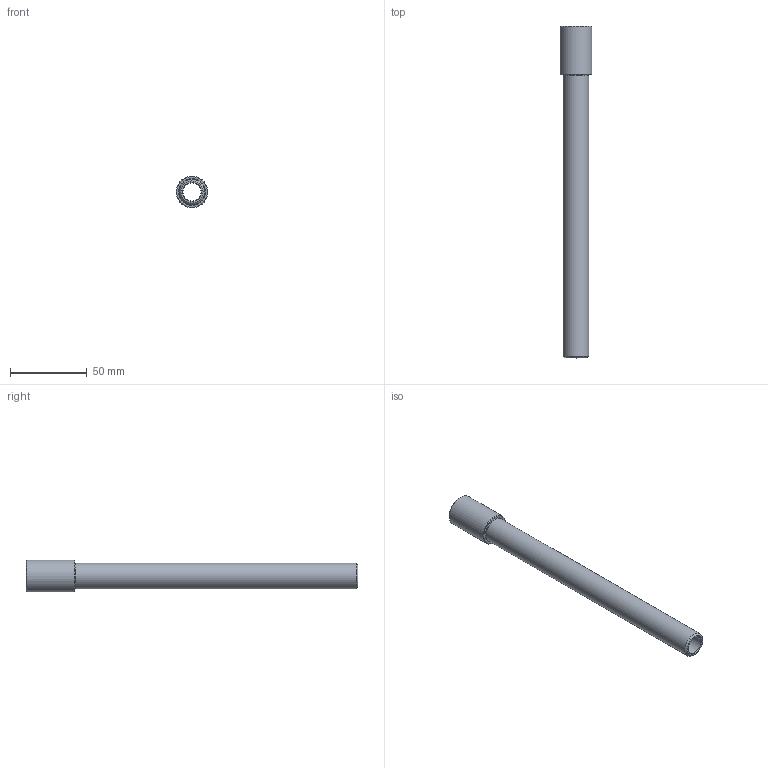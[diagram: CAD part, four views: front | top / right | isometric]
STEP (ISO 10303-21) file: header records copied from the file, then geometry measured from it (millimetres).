
FILE_DESCRIPTION(/* description */ (''),/* implementation_level */ '2;1');
FILE_NAME(/* name */ 'C:/Users/drich/Desktop/EP38X8-1_2 v1.step',/* time_stamp */ '2019-11-18T15:07:11-06:00',/* author */ (''),/* organization */ (''),/* preprocessor_version */ 'ST-DEVELOPER v18',/* originating_system */ 'Autodesk Translation Framework v8.12.0.6',/* authorisation */ '');
FILE_SCHEMA (('AUTOMOTIVE_DESIGN { 1 0 10303 214 3 1 1 }'));
Length unit declared in the file: inch
Products named in the file (2): EP38X8-1_2; EP38X4
Assembly tree (1 placements, depth 2):
  EP38X8-1_2
    EP38X4
Bounding box: 20.62 x 215.9 x 20.62 mm (x, y, z)
Volume: 24578.9 mm3; surface area: 20336.8 mm2
Topology: 1 solids, 1 shells, 23 faces, 55 edges, 37 vertices
Faces by surface type: plane 11, cone 7, cylinder 5
Full cylindrical faces by diameter (mm): 11.887 x1, 14.986 x1, 15.173 x1, 16.537 x1, 20.625 x1
Entity records: 740 total; most frequent: CARTESIAN_POINT 132, DIRECTION 124, ORIENTED_EDGE 110, EDGE_CURVE 55, AXIS2_PLACEMENT_3D 50, VERTEX_POINT 37, EDGE_LOOP 28, LINE 24
